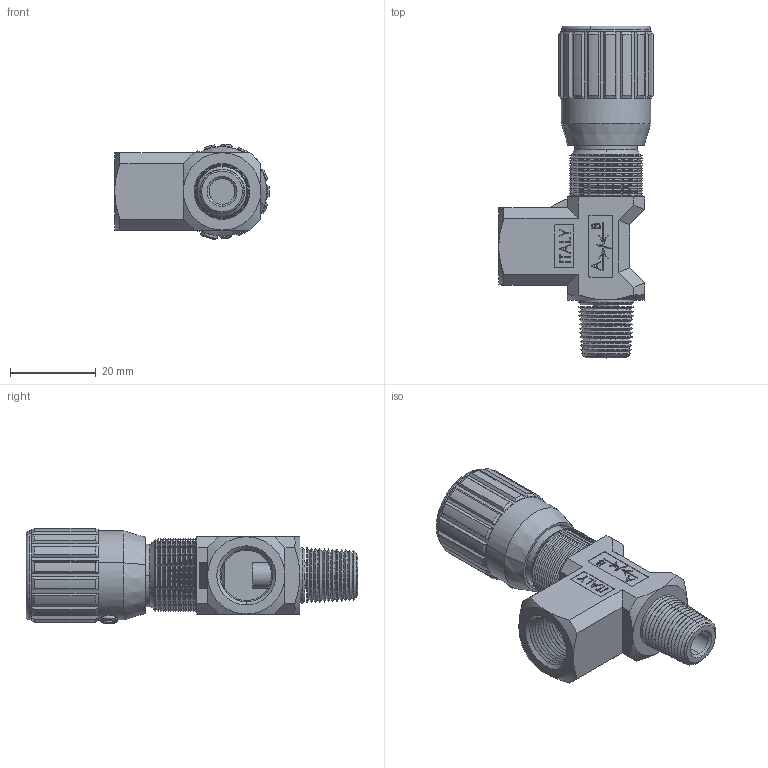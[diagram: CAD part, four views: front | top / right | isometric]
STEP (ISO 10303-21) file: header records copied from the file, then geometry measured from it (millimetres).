
FILE_DESCRIPTION (( 'STEP AP214' ), '1' );
FILE_NAME ('252-2-14 VOLANTINO M-F.STEP', '2015-05-15T15:43:49', ( '' ), ( '' ), 'SwSTEP 2.0', 'SolidWorks 2014', '' );
FILE_SCHEMA (( 'AUTOMOTIVE_DESIGN' ));
Length unit declared in the file: millimetre
Products named in the file (1): 252-2-14 VOLANTINO M-F
Bounding box: 36 x 77.3 x 22.27 mm (x, y, z)
Surface area: 8953.2 mm2 (no closed solid volume)
Topology: 0 solids, 24 shells, 556 faces, 1881 edges, 1295 vertices
Faces by surface type: plane 243, cone 228, cylinder 54, bspline 29, torus 2
Entity records: 28637 total; most frequent: CARTESIAN_POINT 6592, DIRECTION 3208, ORIENTED_EDGE 3061, EDGE_CURVE 1881, VERTEX_POINT 1295, LINE 1226, VECTOR 1226, AXIS2_PLACEMENT_3D 991
